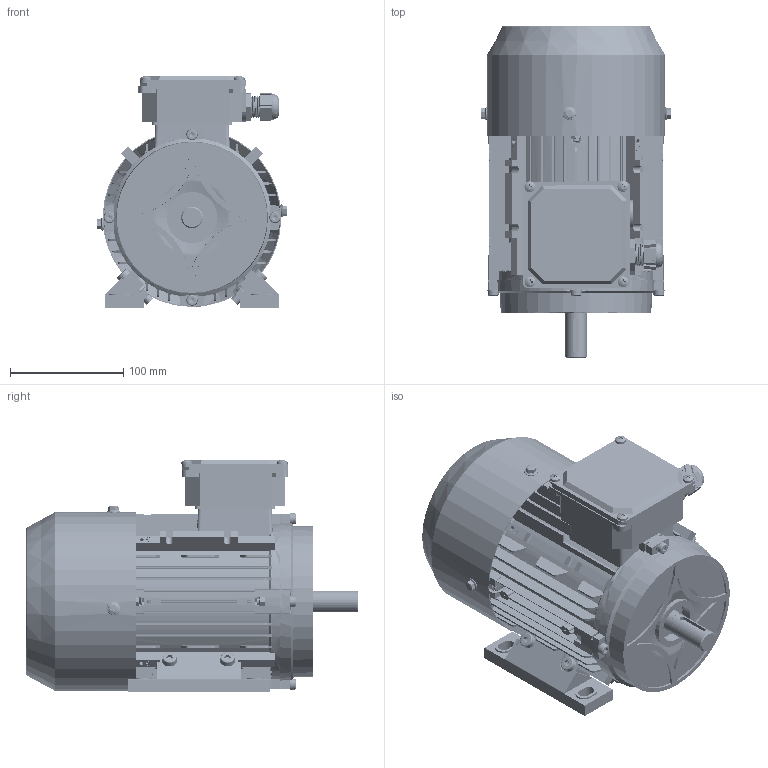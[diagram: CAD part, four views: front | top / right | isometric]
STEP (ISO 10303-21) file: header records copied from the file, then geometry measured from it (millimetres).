
FILE_DESCRIPTION (( 'STEP AP203' ), '1' );
FILE_NAME ('ME3-80B3 3Dͼ.STEP', '2024-05-18T06:51:32', ( 'User' ), ( 'China' ), 'SwSTEP 2.0', 'SolidWorks 2018', '' );
FILE_SCHEMA (( 'CONFIG_CONTROL_DESIGN' ));
Length unit declared in the file: millimetre
Products named in the file (21): ME2 80菁褐; MS63-71諉盄碟裔; ME3 80儂褲; hex lobular socket head cap screws-4.8 gb_GB_HEXAGON_TYPE21 M8X30-30-C; hex nuts, style 2-grades ab gb_GB_HEXAGON_TYPE13 M5 Normal Style-C; ME2  B3后瑞盖; wave single coil spring lock washers gb_GB_FASTENER_WASHER_WSLW 8; hex lobular socket head cap screws-4.8 gb_GB_HEXAGON_TYPE21 M6X30-30-S; ME2  80蛌粣; hex nuts-style normal-grades ab gb_GB_HEXAGON_TYPE10 M8X1-C; ME2  80瑞欶; ME2  B3前瑞盖; ME3-80B3 3Dͼ; hex flange bolts-heavy grade b gb_GB_FASTENER_BOLT_HFBB M5X10-C; MS63-71諉盄碟菁釱; wave single coil spring lock washers gb_GB_FASTENER_WASHER_WSLW 6; 蹟杶郋M20X1.5; hex lobular socket head cap screws-4.8 gb_GB_HEXAGON_TYPE21 M6X30-30-C; 蹟簸M20X1.5; 黑芛20X1.5; cross recessed pan head screws gb_GB_CROSS_SCREWS_TYPE1 M5X8-8  H type-C
Assembly tree (54 placements, depth 2):
  ME3-80B3 3Dͼ
    ME3 80儂褲
    ME2  B3后瑞盖
    ME2  80蛌粣
    ME2  B3前瑞盖
    MS63-71諉盄碟菁釱
    蹟杶郋M20X1.5
    蹟簸M20X1.5
    cross recessed pan head screws gb_GB_CROSS_SCREWS_TYPE1 M5X8-8  H type-C  x8
    MS63-71諉盄碟裔
    hex nuts, style 2-grades ab gb_GB_HEXAGON_TYPE13 M5 Normal Style-C  x7
    hex lobular socket head cap screws-4.8 gb_GB_HEXAGON_TYPE21 M6X30-30-S  x4
    ME2  80瑞欶
    hex flange bolts-heavy grade b gb_GB_FASTENER_BOLT_HFBB M5X10-C  x3
    wave single coil spring lock washers gb_GB_FASTENER_WASHER_WSLW 6  x4
    hex lobular socket head cap screws-4.8 gb_GB_HEXAGON_TYPE21 M6X30-30-C  x4
    黑芛20X1.5
    ME2 80菁褐  x2
    hex lobular socket head cap screws-4.8 gb_GB_HEXAGON_TYPE21 M8X30-30-C  x4
    wave single coil spring lock washers gb_GB_FASTENER_WASHER_WSLW 8  x4
    hex nuts-style normal-grades ab gb_GB_HEXAGON_TYPE10 M8X1-C  x4
Bounding box: 168.19 x 292.56 x 205 mm (x, y, z)
Volume: 942943.3 mm3; surface area: 641083.5 mm2
Topology: 54 solids, 56 shells, 5480 faces, 14093 edges, 8856 vertices
Faces by surface type: plane 2600, cylinder 1306, cone 1134, bspline 218, torus 206, sphere 16
Entity records: 144439 total; most frequent: CARTESIAN_POINT 45962, ORIENTED_EDGE 21100, DIRECTION 18197, EDGE_CURVE 10550, VERTEX_POINT 6854, LINE 6115, VECTOR 6115, AXIS2_PLACEMENT_3D 6041
